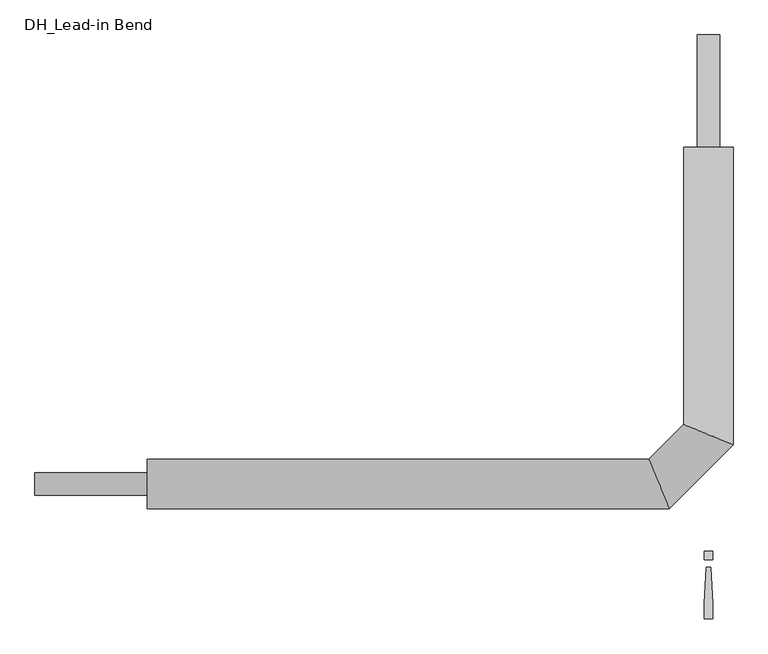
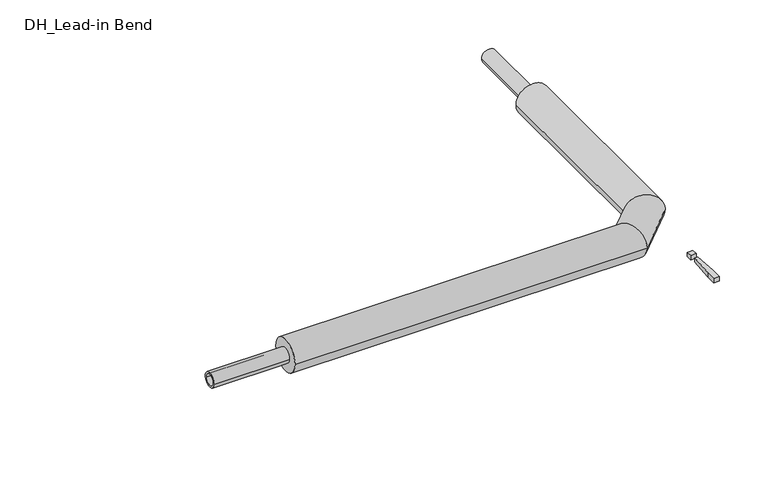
"""IFC4 building model written with IfcOpenShell, lengths in millimetres: pipe fitting geometry, DH_Lead-in Bend : INSULPEX UNO 7.4 DW."""

from ifc_helpers import new_model, si_unit, point, frame, origin, origin_with_axes, origin_2d, place, context, project, spatial, polyline, circle_curve, ellipse_curve, trimmed, segment, composite_curve, outline, extrude, source, transform, mapped, element, save
from ifc_brep_helpers import plane_surface, cylinder_surface, advanced_brep


def dh_lead_in_bend_73f67a77(model_context):
    return source(origin(), model_context, "Body", "SolidModel", [
        advanced_brep(
        [(-1250.0, -55.0, 0.0), (-1250.0, 55.0, 0.0), (-87.2182541, -55.0, 0.0), (-132.7817459, 55.0, 0.0), (55.0, 750.0, 0.0), (-55.0, 750.0, 0.0), (-55.0, 132.7817459, 0.0), (55.0, 87.2182541, 0.0)],
        [
            (0, 1, circle_curve(frame((-1250.0, 0.0, 0.0), z_axis=(-1.0, 0.0, 0.0), x_axis=(0.0, 1.0, 0.0)), 55.0)),
            (1, 0, circle_curve(frame((-1250.0, 0.0, 0.0), z_axis=(-1.0, 0.0, 0.0), x_axis=(0.0, 1.0, 0.0)), 55.0)),
            (0, 2),
            (2, 3, ellipse_curve(frame((-110.0, 0.0, 0.0), z_axis=(-0.9238795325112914, -0.3826834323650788, 0.0), x_axis=(-0.38268343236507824, 0.9238795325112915, 0.0)), 59.531571, 55.0)),
            (3, 1),
            (3, 2, ellipse_curve(frame((-110.0, 0.0, 0.0), z_axis=(-0.9238795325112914, -0.3826834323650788, 0.0), x_axis=(-0.38268343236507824, 0.9238795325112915, 0.0)), 59.531571, 55.0)),
            (4, 5, circle_curve(frame((0.0, 750.0, 0.0), z_axis=(0.0, 1.0, 0.0), x_axis=(-1.0, 0.0, 0.0)), 55.0)),
            (5, 4, circle_curve(frame((0.0, 750.0, 0.0), z_axis=(0.0, 1.0, 0.0), x_axis=(-1.0, 0.0, 0.0)), 55.0)),
            (6, 7, ellipse_curve(frame((0.0, 110.0, 0.0), z_axis=(0.38268343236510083, 0.9238795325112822, 0.0), x_axis=(0.9238795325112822, -0.3826834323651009, 0.0)), 59.531571, 55.0)),
            (7, 4),
            (5, 6),
            (7, 6, ellipse_curve(frame((0.0, 110.0, 0.0), z_axis=(0.38268343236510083, 0.9238795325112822, 0.0), x_axis=(0.9238795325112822, -0.3826834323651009, 0.0)), 59.531571, 55.0)),
            (2, 7),
            (6, 3),
        ],
        [
            plane_surface(frame((-1250.0, 0.0, 0.0), z_axis=(-1.0, 0.0, 0.0), x_axis=(0.0, 0.0, 1.0))),
            cylinder_surface(frame((-1250.0, 0.0, 0.0), z_axis=(-1.0, 0.0, 0.0), x_axis=(0.0, 1.0, 0.0)), 55.0),
            plane_surface(frame((0.0, 750.0, 0.0), z_axis=(0.0, 1.0, 0.0), x_axis=(0.0, 0.0, 1.0))),
            cylinder_surface(frame((0.0, 110.0, 0.0), z_axis=(0.0, -1.0, 0.0), x_axis=(-1.0, 0.0, 0.0)), 55.0),
            cylinder_surface(frame((-110.0, 0.0, 0.0), z_axis=(-0.7071067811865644, -0.7071067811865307, 0.0), x_axis=(-0.7071067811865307, 0.7071067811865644, 0.0)), 55.0),
        ],
        [
            (0, [[1, 2]]),
            (1, [[-1, 3, 4, 5]]),
            (1, [[-2, -5, 6, -3]]),
            (2, [[7, 8]]),
            (3, [[9, 10, -8, 11]]),
            (3, [[12, -11, -7, -10]]),
            (4, [[-4, 13, -9, 14]]),
            (4, [[-6, -14, -12, -13]]),
        ],
    ),
        extrude(outline(polyline([(4.7088895, -185.3166715), (9.4177791, -266.6553807), (9.4177791, -300.6844652), (-9.4177791, -300.6844652), (-9.4177791, -266.6553807), (-4.7088895, -185.3166715), (4.7088895, -185.3166715)])), origin_with_axes(), (0.0, 0.0, 1.0), 15.0),
        extrude(outline(polyline([(9.4177791, -150.0), (9.4177791, -168.8355582), (-9.4177791, -168.8355582), (-9.4177791, -150.0), (9.4177791, -150.0)])), origin_with_axes(), (0.0, 0.0, 1.0), 15.0),
        extrude(outline(composite_curve([segment(trimmed(circle_curve(origin_2d(), 25.0), [point((-25.0, 0.0))], [point((25.0, 0.0))], False, "CARTESIAN"), True, "CONTINUOUS"), segment(trimmed(circle_curve(origin_2d(), 25.0), [point((25.0, 0.0))], [point((-25.0, 0.0))], False, "CARTESIAN"), True, "CONTINUOUS")], self_intersect=False), holes=[composite_curve([segment(trimmed(circle_curve(origin_2d(), 18.1), [point((-18.1, 0.0))], [point((18.1, 0.0))], True, "CARTESIAN"), True, "CONTINUOUS"), segment(trimmed(circle_curve(origin_2d(), 18.1), [point((18.1, 0.0))], [point((-18.1, 0.0))], True, "CARTESIAN"), True, "CONTINUOUS")], self_intersect=False)]), frame((-1500.0, 0.0, 0.0), z_axis=(1.0, 0.0, 0.0), x_axis=(0.0, 1.0, 0.0)), (0.0, 0.0, 1.0), 250.0),
        extrude(outline(composite_curve([segment(trimmed(circle_curve(origin_2d(), 25.0), [point((0.0, 25.0))], [point((0.0, -25.0))], False, "CARTESIAN"), True, "CONTINUOUS"), segment(trimmed(circle_curve(origin_2d(), 25.0), [point((0.0, -25.0))], [point((0.0, 25.0))], False, "CARTESIAN"), True, "CONTINUOUS")], self_intersect=False), holes=[composite_curve([segment(trimmed(circle_curve(origin_2d(), 18.1), [point((0.0, 18.1))], [point((0.0, -18.1))], True, "CARTESIAN"), True, "CONTINUOUS"), segment(trimmed(circle_curve(origin_2d(), 18.1), [point((0.0, -18.1))], [point((0.0, 18.1))], True, "CARTESIAN"), True, "CONTINUOUS")], self_intersect=False)]), frame((0.0, 750.0, 0.0), z_axis=(0.0, 1.0, 0.0), x_axis=(0.0, 0.0, 1.0)), (0.0, 0.0, 1.0), 250.0),
    ])


if __name__ == "__main__":
    model = new_model("IFC4")
    model_context = context("Model", 3, world=origin())
    ifc_project = project(units=[si_unit("LENGTHUNIT", "METRE", prefix="MILLI")], contexts=[model_context])
    site = spatial("IfcSite", under=ifc_project)
    building = spatial("IfcBuilding", under=site)
    placement = place(None, origin())
    dh_lead_in_bend_shape = dh_lead_in_bend_73f67a77(model_context)
    element("IfcPipeFitting", 1, ObjectType="DH_Lead-in Bend : INSULPEX UNO 7.4 DW", at=placement, inside=building, context=model_context, shape_type="MappedRepresentation", body=[
        mapped(dh_lead_in_bend_shape, transform((0.0, 0.0, 0.0), x_axis=(1.0, 0.0, 0.0), y_axis=(0.0, 1.0, 0.0), z_axis=(0.0, 0.0, 1.0))),
    ])
    save(model, "model.ifc")
